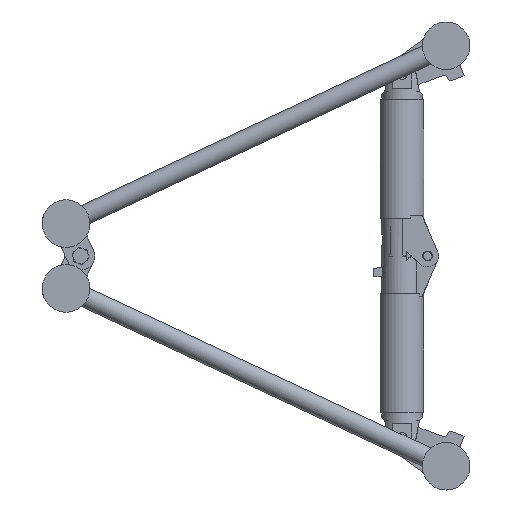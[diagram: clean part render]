
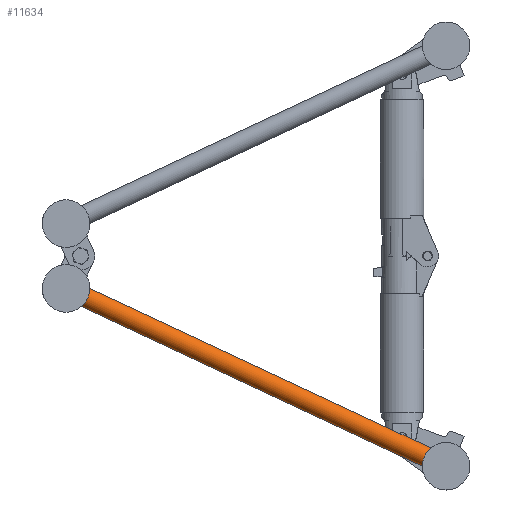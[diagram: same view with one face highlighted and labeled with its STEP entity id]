
A CAD part, left-side view. The second image highlights one B-rep face of the part: STEP entity #11634.
In plain terms, the highlighted cylindrical face has radius 12.5 mm (diameter 25 mm), a full revolution.
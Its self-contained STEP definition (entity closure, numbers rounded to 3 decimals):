
#121=B_SPLINE_CURVE_WITH_KNOTS('',3,(#18275,#18276,#18277,#18278,#18279,
#18280),.UNSPECIFIED.,.F.,.F.,(4,2,4),(1.801,1.922,
2.043),.UNSPECIFIED.);
#122=B_SPLINE_CURVE_WITH_KNOTS('',3,(#18284,#18285,#18286,#18287,#18288,
#18289),.UNSPECIFIED.,.F.,.F.,(4,2,4),(5.645,5.766,
5.887),.UNSPECIFIED.);
#127=B_SPLINE_CURVE_WITH_KNOTS('',3,(#18341,#18342,#18343,#18344,#18345,
#18346),.UNSPECIFIED.,.F.,.F.,(4,2,4),(5.645,5.766,
5.887),.UNSPECIFIED.);
#128=B_SPLINE_CURVE_WITH_KNOTS('',3,(#18350,#18351,#18352,#18353,#18354,
#18355),.UNSPECIFIED.,.F.,.F.,(4,2,4),(1.801,1.922,
2.043),.UNSPECIFIED.);
#2562=FACE_BOUND('',#3795,.T.);
#3000=FACE_OUTER_BOUND('',#3794,.T.);
#3794=EDGE_LOOP('',(#8540,#8541,#8542,#8543));
#3795=EDGE_LOOP('',(#8544,#8545,#8546,#8547));
#4594=CIRCLE('',#12526,12.5);
#4595=CIRCLE('',#12528,12.5);
#4596=CIRCLE('',#12529,12.5);
#4597=CIRCLE('',#12530,12.5);
#5238=VERTEX_POINT('',#18273);
#5239=VERTEX_POINT('',#18274);
#5240=VERTEX_POINT('',#18281);
#5241=VERTEX_POINT('',#18283);
#5252=VERTEX_POINT('',#18339);
#5253=VERTEX_POINT('',#18340);
#5254=VERTEX_POINT('',#18347);
#5255=VERTEX_POINT('',#18349);
#6487=EDGE_CURVE('',#5238,#5239,#121,.T.);
#6489=EDGE_CURVE('',#5241,#5240,#122,.T.);
#6502=EDGE_CURVE('',#5240,#5238,#4594,.T.);
#6503=EDGE_CURVE('',#5252,#5253,#127,.T.);
#6504=EDGE_CURVE('',#5253,#5254,#4595,.T.);
#6505=EDGE_CURVE('',#5254,#5255,#128,.T.);
#6506=EDGE_CURVE('',#5255,#5252,#4596,.T.);
#6507=EDGE_CURVE('',#5239,#5241,#4597,.T.);
#8540=ORIENTED_EDGE('',*,*,#6503,.T.);
#8541=ORIENTED_EDGE('',*,*,#6504,.T.);
#8542=ORIENTED_EDGE('',*,*,#6505,.T.);
#8543=ORIENTED_EDGE('',*,*,#6506,.T.);
#8544=ORIENTED_EDGE('',*,*,#6489,.T.);
#8545=ORIENTED_EDGE('',*,*,#6502,.T.);
#8546=ORIENTED_EDGE('',*,*,#6487,.T.);
#8547=ORIENTED_EDGE('',*,*,#6507,.T.);
#10685=CYLINDRICAL_SURFACE('',#12527,12.5);
#11634=ADVANCED_FACE('',(#3000,#2562),#10685,.T.);
#12526=AXIS2_PLACEMENT_3D('',#18337,#14414,#14415);
#12527=AXIS2_PLACEMENT_3D('',#18338,#14416,#14417);
#12528=AXIS2_PLACEMENT_3D('',#18348,#14418,#14419);
#12529=AXIS2_PLACEMENT_3D('',#18356,#14420,#14421);
#12530=AXIS2_PLACEMENT_3D('',#18357,#14422,#14423);
#14414=DIRECTION('center_axis',(0.,0.906,
0.424));
#14415=DIRECTION('ref_axis',(-1.,0.,0.));
#14416=DIRECTION('center_axis',(0.,0.906,
0.424));
#14417=DIRECTION('ref_axis',(-1.,0.,0.));
#14418=DIRECTION('center_axis',(0.,-0.906,
-0.424));
#14419=DIRECTION('ref_axis',(-1.,0.,0.));
#14420=DIRECTION('center_axis',(0.,-0.906,
-0.424));
#14421=DIRECTION('ref_axis',(-1.,0.,0.));
#14422=DIRECTION('center_axis',(0.,0.906,
0.424));
#14423=DIRECTION('ref_axis',(-1.,0.,0.));
#18273=CARTESIAN_POINT('',(104.94,22.096,-248.305));
#18274=CARTESIAN_POINT('',(104.94,23.134,-250.523));
#18275=CARTESIAN_POINT('Ctrl Pts',(104.94,22.096,-248.305));
#18276=CARTESIAN_POINT('Ctrl Pts',(104.98,22.289,-248.669));
#18277=CARTESIAN_POINT('Ctrl Pts',(105.,22.471,-249.036));
#18278=CARTESIAN_POINT('Ctrl Pts',(105.,22.813,-249.767));
#18279=CARTESIAN_POINT('Ctrl Pts',(104.98,22.978,-250.142));
#18280=CARTESIAN_POINT('Ctrl Pts',(104.94,23.134,-250.523));
#18281=CARTESIAN_POINT('',(80.06,22.096,-248.305));
#18283=CARTESIAN_POINT('',(80.06,23.134,-250.523));
#18284=CARTESIAN_POINT('Ctrl Pts',(80.06,23.134,-250.523));
#18285=CARTESIAN_POINT('Ctrl Pts',(80.02,22.978,-250.142));
#18286=CARTESIAN_POINT('Ctrl Pts',(80.,22.813,-249.767));
#18287=CARTESIAN_POINT('Ctrl Pts',(80.,22.471,-249.036));
#18288=CARTESIAN_POINT('Ctrl Pts',(80.02,22.289,-248.669));
#18289=CARTESIAN_POINT('Ctrl Pts',(80.06,22.096,-248.305));
#18337=CARTESIAN_POINT('Origin',(92.5,22.615,-249.414));
#18338=CARTESIAN_POINT('Origin',(92.5,234.999,-150.));
#18339=CARTESIAN_POINT('',(80.06,446.865,-49.477));
#18340=CARTESIAN_POINT('',(80.06,447.903,-51.695));
#18341=CARTESIAN_POINT('Ctrl Pts',(80.06,446.865,-49.477));
#18342=CARTESIAN_POINT('Ctrl Pts',(80.02,447.021,-49.858));
#18343=CARTESIAN_POINT('Ctrl Pts',(80.,447.185,-50.233));
#18344=CARTESIAN_POINT('Ctrl Pts',(80.,447.528,-50.964));
#18345=CARTESIAN_POINT('Ctrl Pts',(80.02,447.71,-51.331));
#18346=CARTESIAN_POINT('Ctrl Pts',(80.06,447.903,-51.695));
#18347=CARTESIAN_POINT('',(104.94,447.903,-51.695));
#18348=CARTESIAN_POINT('Origin',(92.5,447.384,-50.586));
#18349=CARTESIAN_POINT('',(104.94,446.865,-49.477));
#18350=CARTESIAN_POINT('Ctrl Pts',(104.94,447.903,-51.695));
#18351=CARTESIAN_POINT('Ctrl Pts',(104.98,447.71,-51.331));
#18352=CARTESIAN_POINT('Ctrl Pts',(105.,447.528,-50.964));
#18353=CARTESIAN_POINT('Ctrl Pts',(105.,447.185,-50.233));
#18354=CARTESIAN_POINT('Ctrl Pts',(104.98,447.021,-49.858));
#18355=CARTESIAN_POINT('Ctrl Pts',(104.94,446.865,-49.477));
#18356=CARTESIAN_POINT('Origin',(92.5,447.384,-50.586));
#18357=CARTESIAN_POINT('Origin',(92.5,22.615,-249.414));
